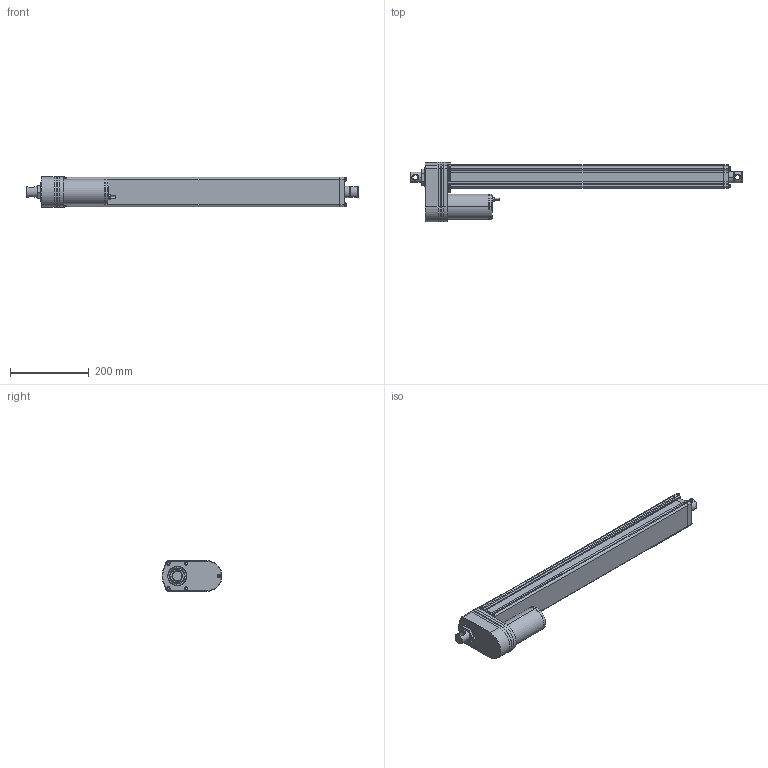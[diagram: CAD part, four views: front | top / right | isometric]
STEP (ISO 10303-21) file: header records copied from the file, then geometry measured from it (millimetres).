
FILE_DESCRIPTION((''),' ');
FILE_NAME('dszy12-600_std.stp',' ',('MSW'),('MSW'),' ','ACIS 14.0',' ');
FILE_SCHEMA(('automotive_design'));
Length unit declared in the file: inch
Products named in the file (2): dszy12-600_std
Bounding box: 841 x 151.7 x 77.2 mm (x, y, z)
Volume: 3546780.6 mm3; surface area: 437413.5 mm2
Topology: 2 solids, 2 shells, 1648 faces, 4015 edges, 2386 vertices
Faces by surface type: plane 1316, cylinder 218, cone 60, torus 30, bspline 24
Entity records: 60917 total; most frequent: CARTESIAN_POINT 8562, DIRECTION 8537, ORIENTED_EDGE 7982, EDGE_CURVE 3991, AXIS2_PLACEMENT_3D 2962, LINE 2613, VECTOR 2613, VERTEX_POINT 2386
